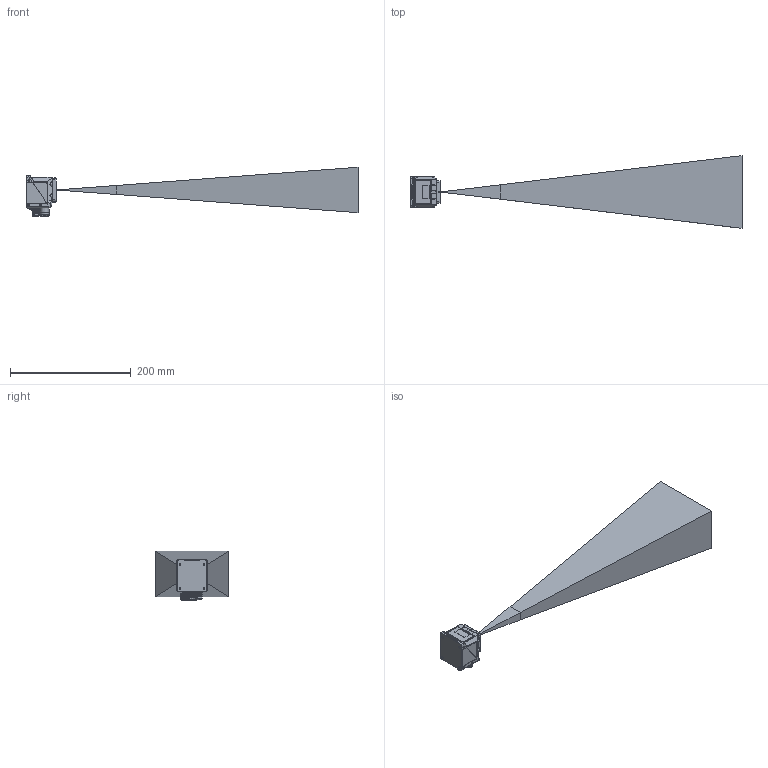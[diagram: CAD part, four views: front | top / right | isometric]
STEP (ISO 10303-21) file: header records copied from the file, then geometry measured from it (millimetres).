
FILE_DESCRIPTION(/* description */ ('Unknown'),/* implementation_level */ '2;1');
FILE_NAME(/* name */ 'IDC200.W16_11704587',/* time_stamp */ '2023-03-03T07:30:31+01:00',/* author */ ('Unknown'),/* organization */ ('Baumer'),/* preprocessor_version */ 'ST-DEVELOPER v16.7',/* originating_system */ 'Solid Edge',/* authorisation */ 'Unknown');
FILE_SCHEMA (('AUTOMOTIVE_DESIGN {1 0 10303 214 3 1 1}'));
Products named in the file (7): IDC200.W16_11704587; IDC200; USBC_Plug; Sealing; Plug_f; Plug_m; IDC200-16mm
Assembly tree (6 placements, depth 2):
  IDC200.W16_11704587
    IDC200
    USBC_Plug
    Sealing
    Plug_f
    Plug_m
    IDC200-16mm
Bounding box: 550.01 x 120.29 x 81.94 mm (x, y, z)
Volume: 1624262.2 mm3; surface area: 131428.7 mm2
Topology: 6 solids, 6 shells, 1845 faces, 4988 edges, 3150 vertices
Faces by surface type: plane 881, cylinder 598, torus 156, bspline 101, cone 72, sphere 37
Full cylindrical faces by diameter (mm): 0.6 x12, 0.65 x8, 1.24 x8, 2.459 x10, 8 x1, 8.25 x1, 8.3 x1, 9.45 x1, 10 x1, 10.4 x2, 10.75 x1, 10.77 x1, 10.917 x1, 10.918 x5, 12 x1, 12.4 x1, 13 x1, 13.5 x1, 15.4 x1, 18 x1
Entity records: 74309 total; most frequent: CARTESIAN_POINT 18942, ORIENTED_EDGE 9422, DIRECTION 9133, EDGE_CURVE 4711, AXIS2_PLACEMENT_3D 3142, VERTEX_POINT 3059, LINE 2849, VECTOR 2849
